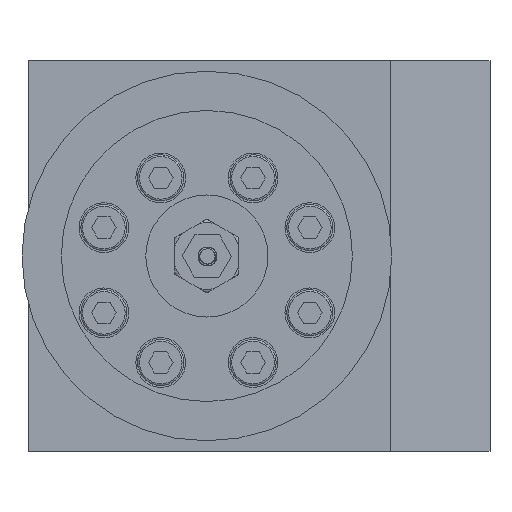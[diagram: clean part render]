
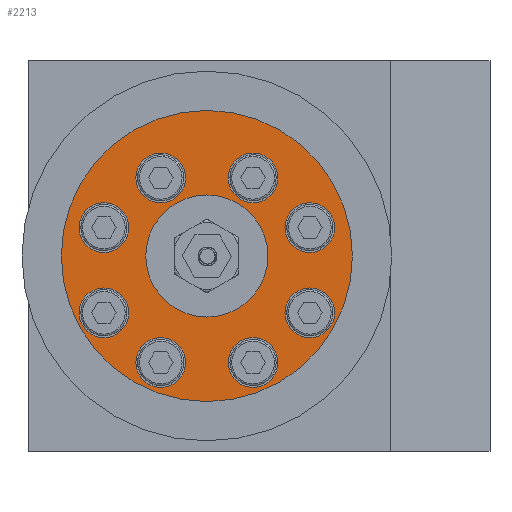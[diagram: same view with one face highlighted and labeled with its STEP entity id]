
A CAD part, left-side view. The second image highlights one B-rep face of the part: STEP entity #2213.
In plain terms, the highlighted planar face has unit normal (-1, 0, 0).
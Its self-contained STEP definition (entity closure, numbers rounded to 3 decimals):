
#2213=ADVANCED_FACE('',(#3191,#3192,#3193,#3194,#3195,#3196,#3197,#3198,
#3199,#3200),#2636,.F.);
#2636=PLANE('',#9001);
#3191=FACE_BOUND('',#3792,.T.);
#3192=FACE_BOUND('',#3793,.T.);
#3193=FACE_BOUND('',#3794,.T.);
#3194=FACE_BOUND('',#3795,.T.);
#3195=FACE_BOUND('',#3796,.T.);
#3196=FACE_BOUND('',#3797,.T.);
#3197=FACE_BOUND('',#3798,.T.);
#3198=FACE_BOUND('',#3799,.T.);
#3199=FACE_BOUND('',#3800,.T.);
#3200=FACE_BOUND('',#3801,.T.);
#3792=EDGE_LOOP('',(#5166));
#3793=EDGE_LOOP('',(#5167));
#3794=EDGE_LOOP('',(#5168));
#3795=EDGE_LOOP('',(#5169));
#3796=EDGE_LOOP('',(#5170));
#3797=EDGE_LOOP('',(#5171));
#3798=EDGE_LOOP('',(#5172));
#3799=EDGE_LOOP('',(#5173));
#3800=EDGE_LOOP('',(#5174));
#3801=EDGE_LOOP('',(#5175));
#5166=ORIENTED_EDGE('',*,*,#7633,.T.);
#5167=ORIENTED_EDGE('',*,*,#7634,.T.);
#5168=ORIENTED_EDGE('',*,*,#7635,.T.);
#5169=ORIENTED_EDGE('',*,*,#7636,.T.);
#5170=ORIENTED_EDGE('',*,*,#7637,.T.);
#5171=ORIENTED_EDGE('',*,*,#7638,.T.);
#5172=ORIENTED_EDGE('',*,*,#7639,.T.);
#5173=ORIENTED_EDGE('',*,*,#7640,.T.);
#5174=ORIENTED_EDGE('',*,*,#7641,.T.);
#5175=ORIENTED_EDGE('',*,*,#7631,.F.);
#6729=VERTEX_POINT('',#26132);
#6731=VERTEX_POINT('',#26137);
#6732=VERTEX_POINT('',#26139);
#6733=VERTEX_POINT('',#26141);
#6734=VERTEX_POINT('',#26143);
#6735=VERTEX_POINT('',#26145);
#6736=VERTEX_POINT('',#26147);
#6737=VERTEX_POINT('',#26149);
#6738=VERTEX_POINT('',#26151);
#6739=VERTEX_POINT('',#26153);
#7631=EDGE_CURVE('',#6729,#6729,#8430,.T.);
#7633=EDGE_CURVE('',#6731,#6731,#8432,.T.);
#7634=EDGE_CURVE('',#6732,#6732,#8433,.T.);
#7635=EDGE_CURVE('',#6733,#6733,#8434,.T.);
#7636=EDGE_CURVE('',#6734,#6734,#8435,.T.);
#7637=EDGE_CURVE('',#6735,#6735,#8436,.T.);
#7638=EDGE_CURVE('',#6736,#6736,#8437,.T.);
#7639=EDGE_CURVE('',#6737,#6737,#8438,.T.);
#7640=EDGE_CURVE('',#6738,#6738,#8439,.T.);
#7641=EDGE_CURVE('',#6739,#6739,#8440,.T.);
#8430=CIRCLE('',#8989,41.);
#8432=CIRCLE('',#8992,17.197);
#8433=CIRCLE('',#8993,7.);
#8434=CIRCLE('',#8994,7.);
#8435=CIRCLE('',#8995,7.);
#8436=CIRCLE('',#8996,7.);
#8437=CIRCLE('',#8997,7.);
#8438=CIRCLE('',#8998,7.);
#8439=CIRCLE('',#8999,7.);
#8440=CIRCLE('',#9000,7.);
#8989=AXIS2_PLACEMENT_3D('',#26131,#10485,#10486);
#8992=AXIS2_PLACEMENT_3D('',#26136,#10491,#10492);
#8993=AXIS2_PLACEMENT_3D('',#26138,#10493,#10494);
#8994=AXIS2_PLACEMENT_3D('',#26140,#10495,#10496);
#8995=AXIS2_PLACEMENT_3D('',#26142,#10497,#10498);
#8996=AXIS2_PLACEMENT_3D('',#26144,#10499,#10500);
#8997=AXIS2_PLACEMENT_3D('',#26146,#10501,#10502);
#8998=AXIS2_PLACEMENT_3D('',#26148,#10503,#10504);
#8999=AXIS2_PLACEMENT_3D('',#26150,#10505,#10506);
#9000=AXIS2_PLACEMENT_3D('',#26152,#10507,#10508);
#9001=AXIS2_PLACEMENT_3D('',#26154,#10509,#10510);
#10485=DIRECTION('',(1.,0.,0.));
#10486=DIRECTION('',(0.,1.,0.));
#10491=DIRECTION('',(1.,0.,0.));
#10492=DIRECTION('',(0.,1.,0.));
#10493=DIRECTION('',(1.,0.,0.));
#10494=DIRECTION('',(0.,-1.,0.));
#10495=DIRECTION('',(1.,0.,0.));
#10496=DIRECTION('',(0.,-1.,0.));
#10497=DIRECTION('',(1.,0.,0.));
#10498=DIRECTION('',(0.,-1.,0.));
#10499=DIRECTION('',(1.,0.,0.));
#10500=DIRECTION('',(0.,-1.,0.));
#10501=DIRECTION('',(1.,0.,0.));
#10502=DIRECTION('',(0.,-1.,0.));
#10503=DIRECTION('',(1.,0.,0.));
#10504=DIRECTION('',(0.,-1.,0.));
#10505=DIRECTION('',(1.,0.,0.));
#10506=DIRECTION('',(0.,-1.,0.));
#10507=DIRECTION('',(1.,0.,0.));
#10508=DIRECTION('',(0.,-1.,0.));
#10509=DIRECTION('',(1.,0.,0.));
#10510=DIRECTION('',(0.,0.,-1.));
#26131=CARTESIAN_POINT('',(-165.,13.745,55.));
#26132=CARTESIAN_POINT('',(-165.,54.745,55.));
#26136=CARTESIAN_POINT('',(-165.,13.745,55.));
#26137=CARTESIAN_POINT('',(-165.,30.943,55.));
#26138=CARTESIAN_POINT('',(-165.,42.745,39.));
#26139=CARTESIAN_POINT('',(-165.,35.745,39.));
#26140=CARTESIAN_POINT('',(-165.,-15.255,39.));
#26141=CARTESIAN_POINT('',(-165.,-22.255,39.));
#26142=CARTESIAN_POINT('',(-165.,-15.255,63.));
#26143=CARTESIAN_POINT('',(-165.,-22.255,63.));
#26144=CARTESIAN_POINT('',(-165.,42.745,63.));
#26145=CARTESIAN_POINT('',(-165.,35.745,63.));
#26146=CARTESIAN_POINT('',(-165.,26.745,25.));
#26147=CARTESIAN_POINT('',(-165.,19.745,25.));
#26148=CARTESIAN_POINT('',(-165.,0.745,25.));
#26149=CARTESIAN_POINT('',(-165.,-6.255,25.));
#26150=CARTESIAN_POINT('',(-165.,0.745,77.));
#26151=CARTESIAN_POINT('',(-165.,-6.255,77.));
#26152=CARTESIAN_POINT('',(-165.,26.745,77.));
#26153=CARTESIAN_POINT('',(-165.,19.745,77.));
#26154=CARTESIAN_POINT('',(-165.,13.745,55.));
